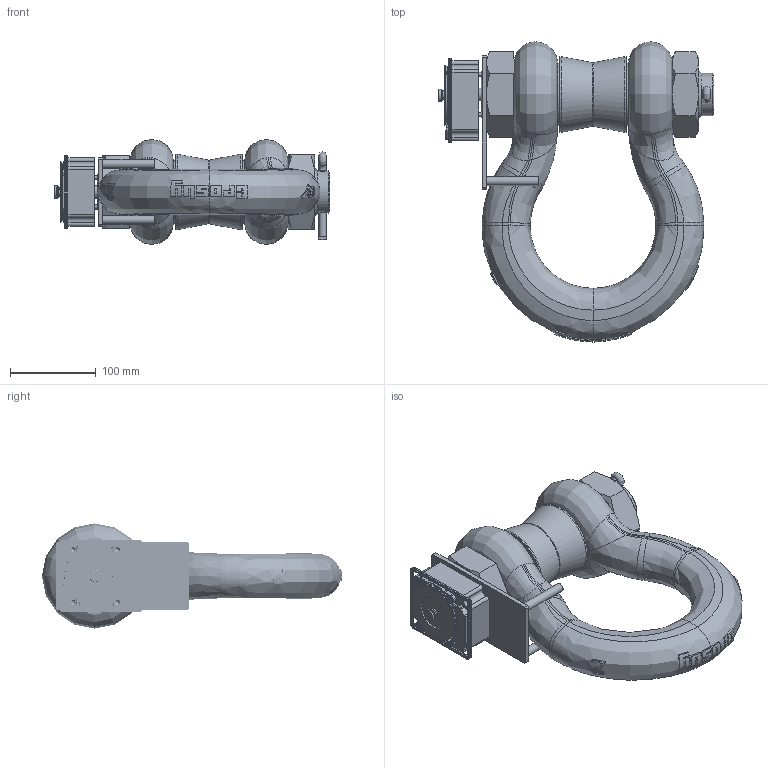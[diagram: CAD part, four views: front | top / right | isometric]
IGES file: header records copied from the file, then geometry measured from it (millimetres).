
Global section: file name: WLS55T; native system: Autodesk Inventor 2020; preprocessor: unknown; author: Achacko; date: 20191024.145649; units: millimetre
Bounding box: 320.83 x 348.92 x 122.17 mm (x, y, z)
Volume: 3151938.2 mm3; surface area: 431923.3 mm2
Topology: 24 solids, 37 shells, 6349 faces, 17596 edges, 11446 vertices
Faces by surface type: bspline 6349
